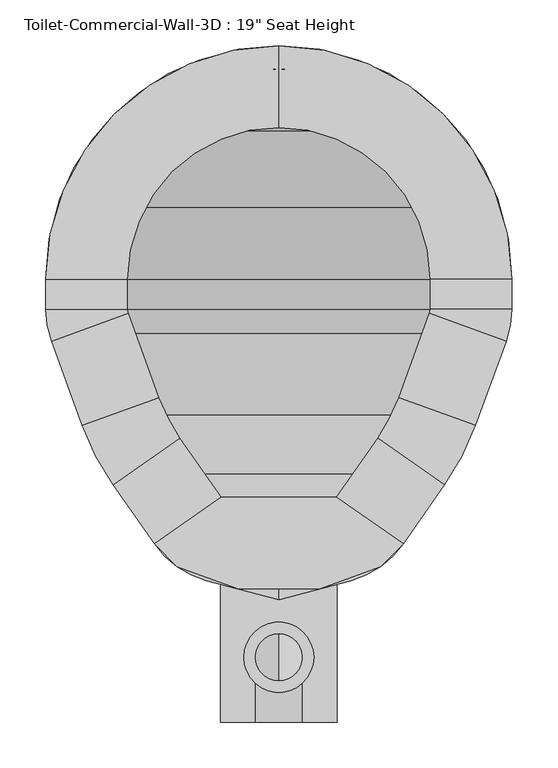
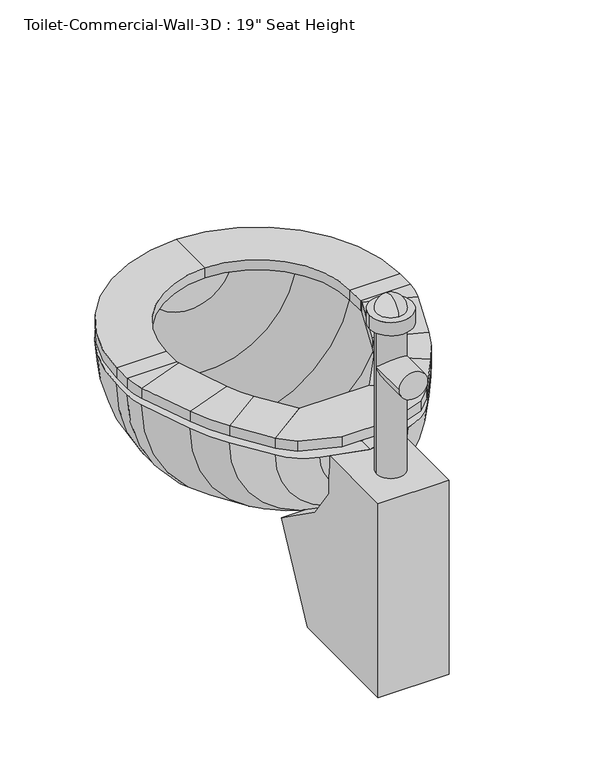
"""IFC4 building model written with IfcOpenShell, lengths in millimetres: flow terminal geometry."""

from ifc_helpers import new_model, si_unit, point, frame, frame_2d, origin, place, context, project, spatial, polyline, circle_curve, ellipse_curve, trimmed, segment, composite_curve, outline, extrude, source, transform, mapped, element, save
from ifc_brep_helpers import plane_surface, cylinder_surface, revolved_surface, advanced_brep


def flow_terminal_6a37c47e(model_context):
    return source(origin(), model_context, "Body", "SolidModel", [
        extrude(outline(polyline([(467.7541169, 375.2097495), (540.5767337, 324.2188043), (515.6262519, 299.2683226), (449.563909, 275.2235961), (360.2423986, 275.2235961), (294.1800557, 299.2683226), (269.229574, 324.2188043), (342.0521907, 375.2097495), (467.7541169, 375.2097495)])), frame((0.0, 0.0, 457.2), z_axis=(0.0, 0.0, 1.0), x_axis=(1.0, 0.0, 0.0)), (0.0, 0.0, 1.0), 19.05),
        advanced_brep(
        [(467.7541169, 375.2097495, 457.2), (540.5767337, 324.2188043, 457.2), (540.5767337, 324.2188043, 476.25), (467.7541169, 375.2097495, 476.25), (512.8583992, 439.6253403, 457.2), (585.6810159, 388.6343951, 457.2), (585.6810159, 388.6343951, 476.25), (512.8583992, 439.6253403, 476.25), (619.360053, 453.3312234, 457.2), (535.821379, 483.7368141, 457.2), (619.360053, 453.3312234, 476.25), (535.821379, 483.7368141, 476.25), (569.2372501, 575.5461654, 457.2), (652.7759241, 545.1405747, 457.2), (652.7759241, 545.1405747, 476.25), (569.2372501, 575.5461654, 476.25), (658.9031538, 579.8898212, 457.2), (570.0031538, 579.8898212, 457.2), (658.9031538, 579.8898212, 476.25), (570.0031538, 579.8898212, 476.25), (570.0031538, 612.775, 457.2), (658.9031538, 612.775, 457.2), (658.9031538, 612.775, 476.25), (570.0031538, 612.775, 476.25), (404.9031538, 866.775, 457.2), (404.9031538, 777.875, 457.2), (404.9031538, 866.775, 476.25), (404.9031538, 777.875, 476.25), (150.9031538, 612.775, 457.2), (239.8031538, 612.775, 457.2), (150.9031538, 612.775, 476.25), (239.8031538, 612.775, 476.25), (239.8031538, 579.8898212, 457.2), (150.9031538, 579.8898212, 457.2), (150.9031538, 579.8898212, 476.25), (239.8031538, 579.8898212, 476.25), (157.0303835, 545.1405747, 457.2), (240.5690575, 575.5461654, 457.2), (157.0303835, 545.1405747, 476.25), (240.5690575, 575.5461654, 476.25), (273.9849286, 483.7368141, 457.2), (190.4462546, 453.3312234, 457.2), (190.4462546, 453.3312234, 476.25), (273.9849286, 483.7368141, 476.25), (224.1252917, 388.6343951, 457.2), (296.9479084, 439.6253403, 457.2), (224.1252917, 388.6343951, 476.25), (296.9479084, 439.6253403, 476.25), (342.0521907, 375.2097495, 457.2), (342.0521907, 375.2097495, 476.25), (269.229574, 324.2188043, 476.25), (269.229574, 324.2188043, 457.2)],
        [
            (0, 1),
            (1, 2),
            (2, 3),
            (3, 0),
            (0, 4),
            (4, 5),
            (5, 1),
            (5, 6),
            (6, 2),
            (6, 7),
            (7, 3),
            (7, 4),
            (8, 5, circle_curve(frame((356.8099347, 548.8916514, 457.2), z_axis=(0.0, 0.0, -1.0), x_axis=(0.8191520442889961, -0.5735764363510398, 0.0)), 279.4)),
            (4, 9, circle_curve(frame((356.8099347, 548.8916514, 457.2), z_axis=(0.0, 0.0, 1.0), x_axis=(0.8191520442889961, -0.5735764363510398, 0.0)), 190.5)),
            (9, 8),
            (10, 6, circle_curve(frame((356.8099347, 548.8916514, 476.25), z_axis=(0.0, 0.0, -1.0), x_axis=(0.8191520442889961, -0.5735764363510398, 0.0)), 279.4)),
            (8, 10),
            (11, 7, circle_curve(frame((356.8099347, 548.8916514, 476.25), z_axis=(0.0, 0.0, -1.0), x_axis=(0.8191520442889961, -0.5735764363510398, 0.0)), 190.5)),
            (10, 11),
            (11, 9),
            (9, 12),
            (12, 13),
            (13, 8),
            (13, 14),
            (14, 10),
            (14, 15),
            (15, 11),
            (15, 12),
            (16, 13, circle_curve(frame((557.3031538, 579.8898212, 457.2), z_axis=(0.0, 0.0, -1.0), x_axis=(0.9396926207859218, -0.34202014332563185, 0.0)), 101.6)),
            (12, 17, circle_curve(frame((557.3031538, 579.8898212, 457.2), z_axis=(0.0, 0.0, 1.0), x_axis=(0.9396926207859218, -0.34202014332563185, 0.0)), 12.7)),
            (17, 16),
            (18, 14, circle_curve(frame((557.3031538, 579.8898212, 476.25), z_axis=(0.0, 0.0, -1.0), x_axis=(0.9396926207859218, -0.34202014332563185, 0.0)), 101.6)),
            (16, 18),
            (19, 15, circle_curve(frame((557.3031538, 579.8898212, 476.25), z_axis=(0.0, 0.0, -1.0), x_axis=(0.9396926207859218, -0.34202014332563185, 0.0)), 12.7)),
            (18, 19),
            (19, 17),
            (17, 20),
            (20, 21),
            (21, 16),
            (21, 22),
            (22, 18),
            (22, 23),
            (23, 19),
            (23, 20),
            (24, 21, circle_curve(frame((404.9031538, 612.775, 457.2), z_axis=(0.0, 0.0, -1.0), x_axis=(1.0, 0.0, 0.0)), 254.0)),
            (20, 25, circle_curve(frame((404.9031538, 612.775, 457.2), z_axis=(0.0, 0.0, 1.0), x_axis=(1.0, 0.0, 0.0)), 165.1)),
            (25, 24),
            (26, 22, circle_curve(frame((404.9031538, 612.775, 476.25), z_axis=(0.0, 0.0, -1.0), x_axis=(1.0, 0.0, 0.0)), 254.0)),
            (24, 26),
            (27, 23, circle_curve(frame((404.9031538, 612.775, 476.25), z_axis=(0.0, 0.0, -1.0), x_axis=(1.0, 0.0, 0.0)), 165.1)),
            (26, 27),
            (27, 25),
            (28, 24, circle_curve(frame((404.9031538, 612.775, 457.2), z_axis=(0.0, 0.0, -1.0), x_axis=(0.0, 1.0, 0.0)), 254.0)),
            (25, 29, circle_curve(frame((404.9031538, 612.775, 457.2), z_axis=(0.0, 0.0, 1.0), x_axis=(0.0, 1.0, 0.0)), 165.1)),
            (29, 28),
            (30, 26, circle_curve(frame((404.9031538, 612.775, 476.25), z_axis=(0.0, 0.0, -1.0), x_axis=(0.0, 1.0, 0.0)), 254.0)),
            (28, 30),
            (31, 27, circle_curve(frame((404.9031538, 612.775, 476.25), z_axis=(0.0, 0.0, -1.0), x_axis=(0.0, 1.0, 0.0)), 165.1)),
            (30, 31),
            (31, 29),
            (29, 32),
            (32, 33),
            (33, 28),
            (33, 34),
            (34, 30),
            (34, 35),
            (35, 31),
            (35, 32),
            (36, 33, circle_curve(frame((252.5031538, 579.8898212, 457.2), z_axis=(0.0, 0.0, -1.0), x_axis=(-1.0, 0.0, 0.0)), 101.6)),
            (32, 37, circle_curve(frame((252.5031538, 579.8898212, 457.2), z_axis=(0.0, 0.0, 1.0), x_axis=(-1.0, 0.0, 0.0)), 12.7)),
            (37, 36),
            (38, 34, circle_curve(frame((252.5031538, 579.8898212, 476.25), z_axis=(0.0, 0.0, -1.0), x_axis=(-1.0, 0.0, 0.0)), 101.6)),
            (36, 38),
            (39, 35, circle_curve(frame((252.5031538, 579.8898212, 476.25), z_axis=(0.0, 0.0, -1.0), x_axis=(-1.0, 0.0, 0.0)), 12.7)),
            (38, 39),
            (39, 37),
            (37, 40),
            (40, 41),
            (41, 36),
            (41, 42),
            (42, 38),
            (42, 43),
            (43, 39),
            (43, 40),
            (44, 41, circle_curve(frame((452.9963729, 548.8916514, 457.2), z_axis=(0.0, 0.0, -1.0), x_axis=(-0.9396926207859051, -0.34202014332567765, 0.0)), 279.4)),
            (40, 45, circle_curve(frame((452.9963729, 548.8916514, 457.2), z_axis=(0.0, 0.0, 1.0), x_axis=(-0.9396926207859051, -0.34202014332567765, 0.0)), 190.5)),
            (45, 44),
            (46, 42, circle_curve(frame((452.9963729, 548.8916514, 476.25), z_axis=(0.0, 0.0, -1.0), x_axis=(-0.9396926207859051, -0.34202014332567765, 0.0)), 279.4)),
            (44, 46),
            (47, 43, circle_curve(frame((452.9963729, 548.8916514, 476.25), z_axis=(0.0, 0.0, -1.0), x_axis=(-0.9396926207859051, -0.34202014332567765, 0.0)), 190.5)),
            (46, 47),
            (47, 45),
            (48, 49),
            (49, 50),
            (50, 51),
            (51, 48),
            (45, 48),
            (51, 44),
            (50, 46),
            (49, 47),
        ],
        [
            plane_surface(frame((540.5767337, 324.2188043, 538.8995365), z_axis=(-0.5735764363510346, -0.8191520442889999, 0.0), x_axis=(0.8191520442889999, -0.5735764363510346, 0.0))),
            plane_surface(frame((467.7541169, 375.2097495, 457.2), z_axis=(0.0, 0.0, -1.0), x_axis=(0.5735764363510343, 0.8191520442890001, 0.0))),
            plane_surface(frame((540.5767337, 324.2188043, 457.2), z_axis=(0.8191520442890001, -0.5735764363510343, 0.0), x_axis=(0.5735764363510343, 0.8191520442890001, 0.0))),
            plane_surface(frame((540.5767337, 324.2188043, 476.25), z_axis=(0.0, 0.0, 1.0), x_axis=(0.5735764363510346, 0.8191520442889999, 0.0))),
            plane_surface(frame((467.7541169, 375.2097495, 476.25), z_axis=(-0.8191520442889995, 0.5735764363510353, 0.0), x_axis=(0.5735764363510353, 0.8191520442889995, 0.0))),
            plane_surface(frame((356.8099347, 548.8916514, 457.2), z_axis=(0.0, 0.0, -1.0000000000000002), x_axis=(0.8191520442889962, -0.5735764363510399, 0.0))),
            cylinder_surface(frame((356.8099347, 548.8916514, 444.5), z_axis=(0.0, 0.0, 1.0), x_axis=(0.8191520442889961, -0.5735764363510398, 0.0)), 279.4),
            plane_surface(frame((356.8099347, 548.8916514, 476.25), z_axis=(0.0, 0.0, 1.0000000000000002), x_axis=(0.8191520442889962, -0.5735764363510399, 0.0))),
            revolved_surface(polyline([(512.8583991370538, 439.6253402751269, 476.25), (512.8583991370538, 439.6253402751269, 457.2)]), (356.8099347, 548.8916514, 444.5), (0.0, 0.0, 1.0)),
            plane_surface(frame((535.821379, 483.7368141, 457.2), z_axis=(0.0, 0.0, -1.0000000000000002), x_axis=(0.34202014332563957, 0.9396926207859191, 0.0))),
            plane_surface(frame((619.360053, 453.3312234, 457.2), z_axis=(0.9396926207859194, -0.34202014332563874, 0.0), x_axis=(0.34202014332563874, 0.9396926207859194, 0.0))),
            plane_surface(frame((619.360053, 453.3312234, 476.25), z_axis=(0.0, 0.0, 1.0000000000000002), x_axis=(0.3420201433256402, 0.9396926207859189, 0.0))),
            plane_surface(frame((535.821379, 483.7368141, 476.25), z_axis=(-0.939692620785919, 0.3420201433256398, 0.0), x_axis=(0.3420201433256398, 0.939692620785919, 0.0))),
            plane_surface(frame((557.3031538, 579.8898212, 457.2), z_axis=(0.0, 0.0, -1.0000000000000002), x_axis=(0.9396926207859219, -0.3420201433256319, 0.0))),
            cylinder_surface(frame((557.3031538, 579.8898212, 444.5), z_axis=(0.0, 0.0, 1.0), x_axis=(0.9396926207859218, -0.34202014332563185, 0.0)), 101.6),
            plane_surface(frame((557.3031538, 579.8898212, 476.25), z_axis=(0.0, 0.0, 1.0000000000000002), x_axis=(0.9396926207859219, -0.3420201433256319, 0.0))),
            revolved_surface(polyline([(569.2372500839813, 575.5461653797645, 476.25), (569.2372500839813, 575.5461653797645, 457.2)]), (557.3031538, 579.8898212, 444.5), (0.0, 0.0, 1.0)),
            plane_surface(frame((570.0031538, 579.8898212, 457.2), z_axis=(0.0, 0.0, -1.0), x_axis=(0.0, 1.0, 0.0))),
            plane_surface(frame((658.9031538, 579.8898212, 457.2), z_axis=(1.0, 0.0, 0.0), x_axis=(0.0, 1.0, 0.0))),
            plane_surface(frame((658.9031538, 579.8898212, 476.25), z_axis=(0.0, 0.0, 1.0), x_axis=(0.0, 1.0, 0.0))),
            plane_surface(frame((570.0031538, 579.8898212, 476.25), z_axis=(-1.0, 0.0, 0.0), x_axis=(0.0, 1.0, 0.0))),
            plane_surface(frame((404.9031538, 612.775, 457.2), z_axis=(0.0, 0.0, -1.0), x_axis=(1.0, 0.0, 0.0))),
            cylinder_surface(frame((404.9031538, 612.775, 444.5), z_axis=(0.0, 0.0, 1.0), x_axis=(1.0, 0.0, 0.0)), 254.0),
            plane_surface(frame((404.9031538, 612.775, 476.25), z_axis=(0.0, 0.0, 1.0), x_axis=(1.0, 0.0, 0.0))),
            revolved_surface(polyline([(570.0031538, 612.775, 476.25), (570.0031538, 612.775, 457.2)]), (404.9031538, 612.775, 444.5), (0.0, 0.0, 1.0)),
            plane_surface(frame((404.9031538, 612.775, 457.2), z_axis=(0.0, 0.0, -1.0), x_axis=(0.0, 1.0, 0.0))),
            cylinder_surface(frame((404.9031538, 612.775, 444.5), z_axis=(0.0, 0.0, 1.0), x_axis=(0.0, 1.0, 0.0)), 254.0),
            plane_surface(frame((404.9031538, 612.775, 476.25), z_axis=(0.0, 0.0, 1.0), x_axis=(0.0, 1.0, 0.0))),
            revolved_surface(polyline([(404.9031538, 777.875, 476.25), (404.9031538, 777.875, 457.2)]), (404.9031538, 612.775, 444.5), (0.0, 0.0, 1.0)),
            plane_surface(frame((239.8031538, 612.775, 457.2), z_axis=(0.0, 0.0, -1.0), x_axis=(0.0, -1.0, 0.0))),
            plane_surface(frame((150.9031538, 612.775, 457.2), z_axis=(-1.0, 0.0, 0.0), x_axis=(0.0, -1.0, 0.0))),
            plane_surface(frame((150.9031538, 612.775, 476.25), z_axis=(0.0, 0.0, 1.0), x_axis=(0.0, -1.0, 0.0))),
            plane_surface(frame((239.8031538, 612.775, 476.25), z_axis=(1.0, 0.0, 0.0), x_axis=(0.0, -1.0, 0.0))),
            plane_surface(frame((252.5031538, 579.8898212, 457.2), z_axis=(0.0, 0.0, -1.0), x_axis=(-1.0, 0.0, 0.0))),
            cylinder_surface(frame((252.5031538, 579.8898212, 444.5), z_axis=(0.0, 0.0, 1.0), x_axis=(-1.0, 0.0, 0.0)), 101.6),
            plane_surface(frame((252.5031538, 579.8898212, 476.25), z_axis=(0.0, 0.0, 1.0), x_axis=(-1.0, 0.0, 0.0))),
            revolved_surface(polyline([(239.80315380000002, 579.8898212, 476.25), (239.80315380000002, 579.8898212, 457.2)]), (252.5031538, 579.8898212, 444.5), (0.0, 0.0, 1.0)),
            plane_surface(frame((240.5690575, 575.5461654, 457.2), z_axis=(0.0, 0.0, -1.0), x_axis=(0.3420201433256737, -0.9396926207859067, 0.0))),
            plane_surface(frame((157.0303835, 545.1405747, 457.2), z_axis=(-0.9396926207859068, -0.3420201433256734, 0.0), x_axis=(0.3420201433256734, -0.9396926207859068, 0.0))),
            plane_surface(frame((157.0303835, 545.1405747, 476.25), z_axis=(0.0, 0.0, 1.0), x_axis=(0.3420201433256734, -0.9396926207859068, 0.0))),
            plane_surface(frame((240.5690575, 575.5461654, 476.25), z_axis=(0.9396926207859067, 0.3420201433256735, 0.0), x_axis=(0.3420201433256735, -0.9396926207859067, 0.0))),
            plane_surface(frame((452.9963729, 548.8916514, 457.2), z_axis=(0.0, 0.0, -1.0000000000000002), x_axis=(-0.9396926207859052, -0.3420201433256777, 0.0))),
            cylinder_surface(frame((452.9963729, 548.8916514, 444.5), z_axis=(0.0, 0.0, 1.0), x_axis=(-0.9396926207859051, -0.34202014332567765, 0.0)), 279.4),
            plane_surface(frame((452.9963729, 548.8916514, 476.25), z_axis=(0.0, 0.0, 1.0000000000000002), x_axis=(-0.9396926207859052, -0.3420201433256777, 0.0))),
            revolved_surface(polyline([(273.98492864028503, 483.7368140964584, 476.25), (273.98492864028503, 483.7368140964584, 457.2)]), (452.9963729, 548.8916514, 444.5), (0.0, 0.0, 1.0)),
            plane_surface(frame((269.229574, 324.2188043, 350.1004635), z_axis=(0.5735764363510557, -0.8191520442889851, 0.0), x_axis=(0.8191520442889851, 0.5735764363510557, 0.0))),
            plane_surface(frame((296.9479084, 439.6253403, 457.2), z_axis=(0.0, 0.0, -1.0), x_axis=(0.5735764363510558, -0.819152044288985, 0.0))),
            plane_surface(frame((224.1252917, 388.6343951, 457.2), z_axis=(-0.8191520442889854, -0.5735764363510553, 0.0), x_axis=(0.5735764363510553, -0.8191520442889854, 0.0))),
            plane_surface(frame((224.1252917, 388.6343951, 476.25), z_axis=(0.0, 0.0, 1.0), x_axis=(0.5735764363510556, -0.8191520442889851, 0.0))),
            plane_surface(frame((296.9479084, 439.6253403, 476.25), z_axis=(0.8191520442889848, 0.5735764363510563, 0.0), x_axis=(0.5735764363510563, -0.8191520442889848, 0.0))),
        ],
        [
            (0, [[1, 2, 3, 4]]),
            (1, [[-1, 5, 6, 7]]),
            (2, [[-2, -7, 8, 9]]),
            (3, [[-3, -9, 10, 11]]),
            (4, [[-4, -11, 12, -5]]),
            (5, [[13, -6, 14, 15]]),
            (6, [[16, -8, -13, 17]]),
            (7, [[18, -10, -16, 19]]),
            (8, [[-14, -12, -18, 20]]),
            (9, [[-15, 21, 22, 23]]),
            (10, [[-17, -23, 24, 25]]),
            (11, [[-19, -25, 26, 27]]),
            (12, [[-20, -27, 28, -21]]),
            (13, [[29, -22, 30, 31]]),
            (14, [[32, -24, -29, 33]]),
            (15, [[34, -26, -32, 35]]),
            (16, [[-30, -28, -34, 36]]),
            (17, [[-31, 37, 38, 39]]),
            (18, [[-33, -39, 40, 41]]),
            (19, [[-35, -41, 42, 43]]),
            (20, [[-36, -43, 44, -37]]),
            (21, [[45, -38, 46, 47]]),
            (22, [[48, -40, -45, 49]]),
            (23, [[50, -42, -48, 51]]),
            (24, [[-46, -44, -50, 52]]),
            (25, [[53, -47, 54, 55]]),
            (26, [[56, -49, -53, 57]]),
            (27, [[58, -51, -56, 59]]),
            (28, [[-54, -52, -58, 60]]),
            (29, [[-55, 61, 62, 63]]),
            (30, [[-57, -63, 64, 65]]),
            (31, [[-59, -65, 66, 67]]),
            (32, [[-60, -67, 68, -61]]),
            (33, [[69, -62, 70, 71]]),
            (34, [[72, -64, -69, 73]]),
            (35, [[74, -66, -72, 75]]),
            (36, [[-70, -68, -74, 76]]),
            (37, [[-71, 77, 78, 79]]),
            (38, [[-73, -79, 80, 81]]),
            (39, [[-75, -81, 82, 83]]),
            (40, [[-76, -83, 84, -77]]),
            (41, [[85, -78, 86, 87]]),
            (42, [[88, -80, -85, 89]]),
            (43, [[90, -82, -88, 91]]),
            (44, [[-86, -84, -90, 92]]),
            (45, [[93, 94, 95, 96]]),
            (46, [[-87, 97, -96, 98]]),
            (47, [[-89, -98, -95, 99]]),
            (48, [[-91, -99, -94, 100]]),
            (49, [[-92, -100, -93, -97]]),
        ],
    ),
        advanced_brep(
        [(491.7762702, 851.4569257, 444.5), (404.9031538, 866.775, 444.5), (404.9031538, 841.375, 444.5), (483.0889586, 827.5887331, 444.5), (566.547764, 774.4196102, 444.5), (619.7168869, 690.9608048, 444.5), (633.5031538, 612.775, 444.5), (633.5031538, 579.8898212, 444.5), (628.9077315, 553.8278863, 444.5), (596.6355667, 465.1608422, 444.5), (562.9565296, 400.4640139, 444.5), (525.0728964, 346.3605786, 444.5), (468.1430637, 306.4978806, 444.5), (404.9031538, 289.5527978, 444.5), (404.9031538, 263.2567829, 444.5), (483.6469009, 284.3561063, 444.5), (540.5767337, 324.2188043, 444.5), (585.6810159, 388.6343951, 444.5), (619.360053, 453.3312234, 444.5), (652.7759241, 545.1405747, 444.5), (658.9031538, 579.8898212, 444.5), (658.9031538, 612.775, 444.5), (643.5850795, 699.6481164, 444.5), (584.5082762, 792.3801224, 444.5), (318.0300374, 851.4569257, 444.5), (225.2980314, 792.3801224, 444.5), (166.2212281, 699.6481164, 444.5), (150.9031538, 612.775, 444.5), (150.9031538, 579.8898212, 444.5), (157.0303835, 545.1405747, 444.5), (190.4462546, 453.3312234, 444.5), (224.1252917, 388.6343951, 444.5), (269.229574, 324.2188043, 444.5), (326.1594067, 284.3561063, 444.5), (341.663244, 306.4978806, 444.5), (284.7334112, 346.3605786, 444.5), (246.849778, 400.4640139, 444.5), (213.1707409, 465.1608422, 444.5), (180.8985761, 553.8278863, 444.5), (176.3031538, 579.8898212, 444.5), (176.3031538, 612.775, 444.5), (190.0894207, 690.9608048, 444.5), (243.2585436, 774.4196102, 444.5), (326.7173491, 827.5887331, 444.5)],
        [
            (0, 1, circle_curve(frame((404.9031538, 612.775, 444.5), z_axis=(0.0, 0.0, 1.0), x_axis=(1.0, 0.0, 0.0)), 254.0)),
            (1, 2),
            (2, 3, circle_curve(frame((404.9031538, 612.775, 444.5), z_axis=(0.0, 0.0, -1.0), x_axis=(1.0, 0.0, 0.0)), 228.6)),
            (3, 4, circle_curve(frame((404.9031538, 612.775, 444.5), z_axis=(0.0, 0.0, -1.0), x_axis=(1.0, 0.0, 0.0)), 228.6)),
            (4, 5, circle_curve(frame((404.9031538, 612.775, 444.5), z_axis=(0.0, 0.0, -1.0), x_axis=(1.0, 0.0, 0.0)), 228.6)),
            (5, 6, circle_curve(frame((404.9031538, 612.775, 444.5), z_axis=(0.0, 0.0, -1.0), x_axis=(1.0, 0.0, 0.0)), 228.6)),
            (6, 7),
            (7, 8, circle_curve(frame((557.3031538, 579.8898212, 444.5), z_axis=(0.0, 0.0, -1.0), x_axis=(1.0, 0.0, 0.0)), 76.2)),
            (8, 9),
            (9, 10, circle_curve(frame((334.0854485, 560.7212703, 444.5), z_axis=(0.0, 0.0, -1.0), x_axis=(1.0, 0.0, 0.0)), 279.4)),
            (10, 11),
            (11, 12, circle_curve(frame((441.8470487, 404.6359446, 444.5), z_axis=(0.0, 0.0, -1.0), x_axis=(1.0, 0.0, 0.0)), 101.6)),
            (12, 13),
            (13, 14),
            (14, 15),
            (15, 16, circle_curve(frame((457.350886, 382.4941703, 444.5), z_axis=(0.0, 0.0, 1.0), x_axis=(1.0, 0.0, 0.0)), 101.6)),
            (16, 17),
            (17, 18, circle_curve(frame((356.8099347, 548.8916514, 444.5), z_axis=(0.0, 0.0, 1.0), x_axis=(1.0, 0.0, 0.0)), 279.4)),
            (18, 19),
            (19, 20, circle_curve(frame((557.3031538, 579.8898212, 444.5), z_axis=(0.0, 0.0, 1.0), x_axis=(1.0, 0.0, 0.0)), 101.6)),
            (20, 21),
            (21, 22, circle_curve(frame((404.9031538, 612.775, 444.5), z_axis=(0.0, 0.0, 1.0), x_axis=(1.0, 0.0, 0.0)), 254.0)),
            (22, 23, circle_curve(frame((404.9031538, 612.775, 444.5), z_axis=(0.0, 0.0, 1.0), x_axis=(1.0, 0.0, 0.0)), 254.0)),
            (23, 0, circle_curve(frame((404.9031538, 612.775, 444.5), z_axis=(0.0, 0.0, 1.0), x_axis=(1.0, 0.0, 0.0)), 254.0)),
            (24, 25, circle_curve(frame((404.9031538, 612.775, 444.5), z_axis=(0.0, 0.0, 1.0), x_axis=(-1.0, 0.0, 0.0)), 254.0)),
            (25, 26, circle_curve(frame((404.9031538, 612.775, 444.5), z_axis=(0.0, 0.0, 1.0), x_axis=(-1.0, 0.0, 0.0)), 254.0)),
            (26, 27, circle_curve(frame((404.9031538, 612.775, 444.5), z_axis=(0.0, 0.0, 1.0), x_axis=(-1.0, 0.0, 0.0)), 254.0)),
            (27, 28),
            (28, 29, circle_curve(frame((252.5031538, 579.8898212, 444.5), z_axis=(0.0, 0.0, 1.0), x_axis=(-1.0, 0.0, 0.0)), 101.6)),
            (29, 30),
            (30, 31, circle_curve(frame((452.9963729, 548.8916514, 444.5), z_axis=(0.0, 0.0, 1.0), x_axis=(-1.0, 0.0, 0.0)), 279.4)),
            (31, 32),
            (32, 33, circle_curve(frame((352.4554217, 382.4941703, 444.5), z_axis=(0.0, 0.0, 1.0), x_axis=(-1.0, 0.0, 0.0)), 101.6)),
            (33, 14),
            (13, 34),
            (34, 35, circle_curve(frame((367.9592589, 404.6359446, 444.5), z_axis=(0.0, 0.0, -1.0), x_axis=(-1.0, 0.0, 0.0)), 101.6)),
            (35, 36),
            (36, 37, circle_curve(frame((475.7208592, 560.7212703, 444.5), z_axis=(0.0, 0.0, -1.0), x_axis=(-1.0, 0.0, 0.0)), 279.4)),
            (37, 38),
            (38, 39, circle_curve(frame((252.5031538, 579.8898212, 444.5), z_axis=(0.0, 0.0, -1.0), x_axis=(-1.0, 0.0, 0.0)), 76.2)),
            (39, 40),
            (40, 41, circle_curve(frame((404.9031538, 612.775, 444.5), z_axis=(0.0, 0.0, -1.0), x_axis=(-1.0, 0.0, 0.0)), 228.6)),
            (41, 42, circle_curve(frame((404.9031538, 612.775, 444.5), z_axis=(0.0, 0.0, -1.0), x_axis=(-1.0, 0.0, 0.0)), 228.6)),
            (42, 43, circle_curve(frame((404.9031538, 612.775, 444.5), z_axis=(0.0, 0.0, -1.0), x_axis=(-1.0, 0.0, 0.0)), 228.6)),
            (43, 2, circle_curve(frame((404.9031538, 612.775, 444.5), z_axis=(0.0, 0.0, -1.0), x_axis=(-1.0, 0.0, 0.0)), 228.6)),
            (1, 24, circle_curve(frame((404.9031538, 612.775, 444.5), z_axis=(0.0, 0.0, 1.0), x_axis=(-1.0, 0.0, 0.0)), 254.0)),
            (0, 24, circle_curve(frame((404.9031538, 851.4569257, 444.5), z_axis=(0.0, 1.0, 0.0), x_axis=(1.0, 0.0, 0.0)), 86.8731164)),
            (43, 3, circle_curve(frame((404.9031538, 827.5887331, 444.5), z_axis=(0.0, -1.0, 0.0), x_axis=(1.0, 0.0, 0.0)), 78.1858048)),
            (42, 4, circle_curve(frame((404.9031538, 774.4196102, 444.5), z_axis=(0.0, -1.0, 0.0), x_axis=(1.0, 0.0, 0.0)), 161.6446102)),
            (41, 5, circle_curve(frame((404.9031538, 690.9608048, 444.5), z_axis=(0.0, -1.0, 0.0), x_axis=(1.0, 0.0, 0.0)), 214.8137331)),
            (40, 6, circle_curve(frame((404.9031538, 612.775, 444.5), z_axis=(0.0, -1.0, 0.0), x_axis=(1.0, 0.0, 0.0)), 228.6)),
            (39, 7, circle_curve(frame((404.9031538, 579.8898212, 444.5), z_axis=(0.0, -1.0, 0.0), x_axis=(1.0, 0.0, 0.0)), 228.6)),
            (38, 8, circle_curve(frame((404.9031538, 553.8278863, 444.5), z_axis=(0.0, -1.0, 0.0), x_axis=(1.0, 0.0, 0.0)), 224.0045777)),
            (37, 9, circle_curve(frame((404.9031538, 465.1608422, 444.5), z_axis=(0.0, -1.0, 0.0), x_axis=(1.0, 0.0, 0.0)), 191.7324129)),
            (36, 10, circle_curve(frame((404.9031538, 400.4640139, 444.5), z_axis=(0.0, -1.0, 0.0), x_axis=(1.0, 0.0, 0.0)), 158.0533758)),
            (35, 11, circle_curve(frame((404.9031538, 346.3605786, 444.5), z_axis=(0.0, -1.0, 0.0), x_axis=(1.0, 0.0, 0.0)), 120.1697426)),
            (34, 12, circle_curve(frame((404.9031538, 306.4978806, 444.5), z_axis=(0.0, -1.0, 0.0), x_axis=(1.0, 0.0, 0.0)), 63.2399099)),
            (33, 15, circle_curve(frame((404.9031538, 284.3561063, 444.5), z_axis=(0.0, -1.0, 0.0), x_axis=(1.0, 0.0, 0.0)), 78.7437471)),
            (32, 16, circle_curve(frame((404.9031538, 324.2188043, 444.5), z_axis=(0.0, -1.0, 0.0), x_axis=(1.0, 0.0, 0.0)), 135.6735798)),
            (31, 17, circle_curve(frame((404.9031538, 388.6343951, 444.5), z_axis=(0.0, -1.0, 0.0), x_axis=(1.0, 0.0, 0.0)), 180.7778621)),
            (30, 18, circle_curve(frame((404.9031538, 453.3312234, 444.5), z_axis=(0.0, -1.0, 0.0), x_axis=(1.0, 0.0, 0.0)), 214.4568992)),
            (29, 19, circle_curve(frame((404.9031538, 545.1405747, 444.5), z_axis=(0.0, -1.0, 0.0), x_axis=(1.0, 0.0, 0.0)), 247.8727703)),
            (28, 20, circle_curve(frame((404.9031538, 579.8898212, 444.5), z_axis=(0.0, -1.0, 0.0), x_axis=(1.0, 0.0, 0.0)), 254.0)),
            (27, 21, circle_curve(frame((404.9031538, 612.775, 444.5), z_axis=(0.0, -1.0, 0.0), x_axis=(1.0, 0.0, 0.0)), 254.0)),
            (26, 22, circle_curve(frame((404.9031538, 699.6481164, 444.5), z_axis=(0.0, -1.0, 0.0), x_axis=(1.0, 0.0, 0.0)), 238.6819257)),
            (25, 23, circle_curve(frame((404.9031538, 792.3801224, 444.5), z_axis=(0.0, -1.0, 0.0), x_axis=(1.0, 0.0, 0.0)), 179.6051224)),
        ],
        [
            plane_surface(frame((404.9031538, 971.9852448, 444.5), z_axis=(0.0, 0.0, 1.0), x_axis=(1.0, 0.0, 0.0))),
            plane_surface(frame((404.9031538, 971.9852448, 444.5), z_axis=(0.0, 0.0, 1.0), x_axis=(-1.0, 0.0, 0.0))),
            revolved_surface(trimmed(ellipse_curve(frame((404.9031538, 612.775, 444.5), z_axis=(0.0, 0.0, 1.0), x_axis=(1.0, 0.0, 0.0)), 254.0, 254.0), [point((491.7762702, 851.4569257, 444.5))], [point((404.9031538, 866.775, 444.5))], True, "CARTESIAN"), (404.9031538, 971.9852448, 444.5), (0.0, 1.0, 0.0)),
            revolved_surface(trimmed(ellipse_curve(frame((404.9031538, 612.775, 444.5), z_axis=(0.0, 0.0, -1.0), x_axis=(1.0, 0.0, 0.0)), 228.6, 228.6), [point((404.9031538, 841.375, 444.5))], [point((483.0889586, 827.5887331, 444.5))], True, "CARTESIAN"), (404.9031538, 971.9852448, 444.5), (0.0, 1.0, 0.0)),
            revolved_surface(trimmed(ellipse_curve(frame((404.9031538, 612.775, 444.5), z_axis=(0.0, 0.0, -1.0), x_axis=(1.0, 0.0, 0.0)), 228.6, 228.6), [point((483.0889586, 827.5887331, 444.5))], [point((566.547764, 774.4196102, 444.5))], True, "CARTESIAN"), (404.9031538, 971.9852448, 444.5), (0.0, 1.0, 0.0)),
            revolved_surface(trimmed(ellipse_curve(frame((404.9031538, 612.775, 444.5), z_axis=(0.0, 0.0, -1.0), x_axis=(1.0, 0.0, 0.0)), 228.6, 228.6), [point((566.547764, 774.4196102, 444.5))], [point((619.7168869, 690.9608048, 444.5))], True, "CARTESIAN"), (404.9031538, 971.9852448, 444.5), (0.0, 1.0, 0.0)),
            revolved_surface(trimmed(ellipse_curve(frame((404.9031538, 612.775, 444.5), z_axis=(0.0, 0.0, -1.0), x_axis=(1.0, 0.0, 0.0)), 228.6, 228.6), [point((619.7168869, 690.9608048, 444.5))], [point((633.5031538, 612.775, 444.5))], True, "CARTESIAN"), (404.9031538, 971.9852448, 444.5), (0.0, 1.0, 0.0)),
            revolved_surface(polyline([(633.5031538, 612.775, 444.5), (633.5031538, 579.8898212, 444.5)]), (404.9031538, 971.9852448, 444.5), (0.0, 1.0, 0.0)),
            revolved_surface(trimmed(ellipse_curve(frame((557.3031538, 579.8898212, 444.5), z_axis=(0.0, 0.0, -1.0), x_axis=(1.0, 0.0, 0.0)), 76.2, 76.2), [point((633.5031538, 579.8898212, 444.5))], [point((628.9077315, 553.8278863, 444.5))], True, "CARTESIAN"), (404.9031538, 971.9852448, 444.5), (0.0, 1.0, 0.0)),
            revolved_surface(polyline([(628.9077315, 553.8278863, 444.5), (596.6355667, 465.1608422, 444.5)]), (404.9031538, 971.9852448, 444.5), (0.0, 1.0, 0.0)),
            revolved_surface(trimmed(ellipse_curve(frame((334.0854485, 560.7212703, 444.5), z_axis=(0.0, 0.0, -1.0), x_axis=(1.0, 0.0, 0.0)), 279.4, 279.4), [point((596.6355667, 465.1608422, 444.5))], [point((562.9565296, 400.4640139, 444.5))], True, "CARTESIAN"), (404.9031538, 971.9852448, 444.5), (0.0, 1.0, 0.0)),
            revolved_surface(polyline([(562.9565296, 400.4640139, 444.5), (525.0728964, 346.3605786, 444.5)]), (404.9031538, 971.9852448, 444.5), (0.0, 1.0, 0.0)),
            revolved_surface(trimmed(ellipse_curve(frame((441.8470487, 404.6359446, 444.5), z_axis=(0.0, 0.0, -1.0), x_axis=(1.0, 0.0, 0.0)), 101.6, 101.6), [point((525.0728964, 346.3605786, 444.5))], [point((468.1430637, 306.4978806, 444.5))], True, "CARTESIAN"), (404.9031538, 971.9852448, 444.5), (0.0, 1.0, 0.0)),
            revolved_surface(polyline([(468.1430637, 306.4978806, 444.5), (404.9031538, 289.5527978, 444.5)]), (404.9031538, 971.9852448, 444.5), (0.0, 1.0, 0.0)),
            revolved_surface(polyline([(404.9031538, 263.2567829, 444.5), (483.6469009, 284.3561063, 444.5)]), (404.9031538, 971.9852448, 444.5), (0.0, 1.0, 0.0)),
            revolved_surface(trimmed(ellipse_curve(frame((457.350886, 382.4941703, 444.5), z_axis=(0.0, 0.0, 1.0), x_axis=(1.0, 0.0, 0.0)), 101.6, 101.6), [point((483.6469009, 284.3561063, 444.5))], [point((540.5767337, 324.2188043, 444.5))], True, "CARTESIAN"), (404.9031538, 971.9852448, 444.5), (0.0, 1.0, 0.0)),
            revolved_surface(polyline([(540.5767337, 324.2188043, 444.5), (585.6810159, 388.6343951, 444.5)]), (404.9031538, 971.9852448, 444.5), (0.0, 1.0, 0.0)),
            revolved_surface(trimmed(ellipse_curve(frame((356.8099347, 548.8916514, 444.5), z_axis=(0.0, 0.0, 1.0), x_axis=(1.0, 0.0, 0.0)), 279.4, 279.4), [point((585.6810159, 388.6343951, 444.5))], [point((619.360053, 453.3312234, 444.5))], True, "CARTESIAN"), (404.9031538, 971.9852448, 444.5), (0.0, 1.0, 0.0)),
            revolved_surface(polyline([(619.360053, 453.3312234, 444.5), (652.7759241, 545.1405747, 444.5)]), (404.9031538, 971.9852448, 444.5), (0.0, 1.0, 0.0)),
            revolved_surface(trimmed(ellipse_curve(frame((557.3031538, 579.8898212, 444.5), z_axis=(0.0, 0.0, 1.0), x_axis=(1.0, 0.0, 0.0)), 101.6, 101.6), [point((652.7759241, 545.1405747, 444.5))], [point((658.9031538, 579.8898212, 444.5))], True, "CARTESIAN"), (404.9031538, 971.9852448, 444.5), (0.0, 1.0, 0.0)),
            cylinder_surface(frame((404.9031538, 971.9852448, 444.5), z_axis=(0.0, 1.0, 0.0), x_axis=(1.0, 0.0, 0.0)), 254.0),
            revolved_surface(trimmed(ellipse_curve(frame((404.9031538, 612.775, 444.5), z_axis=(0.0, 0.0, 1.0), x_axis=(1.0, 0.0, 0.0)), 254.0, 254.0), [point((658.9031538, 612.775, 444.5))], [point((643.5850795, 699.6481164, 444.5))], True, "CARTESIAN"), (404.9031538, 971.9852448, 444.5), (0.0, 1.0, 0.0)),
            revolved_surface(trimmed(ellipse_curve(frame((404.9031538, 612.775, 444.5), z_axis=(0.0, 0.0, 1.0), x_axis=(1.0, 0.0, 0.0)), 254.0, 254.0), [point((643.5850795, 699.6481164, 444.5))], [point((584.5082762, 792.3801224, 444.5))], True, "CARTESIAN"), (404.9031538, 971.9852448, 444.5), (0.0, 1.0, 0.0)),
            revolved_surface(trimmed(ellipse_curve(frame((404.9031538, 612.775, 444.5), z_axis=(0.0, 0.0, 1.0), x_axis=(1.0, 0.0, 0.0)), 254.0, 254.0), [point((584.5082762, 792.3801224, 444.5))], [point((491.7762702, 851.4569257, 444.5))], True, "CARTESIAN"), (404.9031538, 971.9852448, 444.5), (0.0, 1.0, 0.0)),
        ],
        [
            (0, [[1, 2, 3, 4, 5, 6, 7, 8, 9, 10, 11, 12, 13, 14, 15, 16, 17, 18, 19, 20, 21, 22, 23, 24]]),
            (1, [[25, 26, 27, 28, 29, 30, 31, 32, 33, 34, -14, 35, 36, 37, 38, 39, 40, 41, 42, 43, 44, 45, -2, 46]]),
            (2, [[-1, 47, -46]]),
            (3, [[48, -3, -45]]),
            (4, [[49, -4, -48, -44]]),
            (5, [[50, -5, -49, -43]]),
            (6, [[51, -6, -50, -42]]),
            (7, [[52, -7, -51, -41]]),
            (8, [[53, -8, -52, -40]]),
            (9, [[54, -9, -53, -39]]),
            (10, [[55, -10, -54, -38]]),
            (11, [[56, -11, -55, -37]]),
            (12, [[57, -12, -56, -36]]),
            (13, [[-13, -57, -35]]),
            (14, [[58, -15, -34]]),
            (15, [[59, -16, -58, -33]]),
            (16, [[60, -17, -59, -32]]),
            (17, [[61, -18, -60, -31]]),
            (18, [[62, -19, -61, -30]]),
            (19, [[63, -20, -62, -29]]),
            (20, [[64, -21, -63, -28]]),
            (21, [[65, -22, -64, -27]]),
            (22, [[66, -23, -65, -26]]),
            (23, [[-47, -24, -66, -25]]),
        ],
    ),
        advanced_brep(
        [(404.9031538, 175.0926912, 749.3), (404.9031538, 226.3278563, 749.3), (404.9031538, 200.7102737, 774.9175826), (404.9031538, 200.7102737, 749.3)],
        [
            (0, 1, circle_curve(frame((404.9031538, 200.7102737, 749.3), z_axis=(0.0, 0.0, 1.0), x_axis=(0.0, 1.0, 0.0)), 25.6175826)),
            (1, 2, circle_curve(frame((404.9031538, 200.7102737, 749.3), z_axis=(1.0, 0.0, 0.0), x_axis=(0.0, -1.0, 0.0)), 25.6175826)),
            (2, 0, circle_curve(frame((404.9031538, 200.7102737, 749.3), z_axis=(1.0, 0.0, 0.0), x_axis=(0.0, 1.0, 0.0)), 25.6175826)),
            (1, 0, circle_curve(frame((404.9031538, 200.7102737, 749.3), z_axis=(0.0, 0.0, 1.0), x_axis=(0.0, 1.0, 0.0)), 25.6175826)),
            (3, 1),
            (0, 3),
        ],
        [
            revolved_surface(trimmed(ellipse_curve(frame((404.9031538, 200.7102737, 749.3), z_axis=(-1.0, 0.0, 0.0), x_axis=(0.0, -1.0, 0.0)), 25.6175826, 25.6175826), [point((404.9031538, 200.7102737, 774.9175826))], [point((404.9031538, 226.3278563, 749.3))], True, "CARTESIAN"), (404.9031538, 200.7102737, 813.9277273), (0.0, 0.0, -1.0)),
            plane_surface(frame((404.9031538, 200.7102737, 749.3), z_axis=(0.0, 0.0, -1.0), x_axis=(0.0, 1.0, 0.0))),
        ],
        [
            (0, [[1, 2, 3]]),
            (0, [[4, -3, -2]]),
            (1, [[5, -1, 6]]),
            (1, [[-6, -4, -5]]),
        ],
    ),
        extrude(outline(composite_curve([segment(trimmed(circle_curve(frame_2d((404.9031538, 200.7102737)), 38.1), [point((366.8031538, 200.7102737))], [point((443.0031538, 200.7102737))], False, "CARTESIAN"), True, "CONTINUOUS"), segment(trimmed(circle_curve(frame_2d((404.9031538, 200.7102737)), 38.1), [point((443.0031538, 200.7102737))], [point((366.8031538, 200.7102737))], False, "CARTESIAN"), True, "CONTINUOUS")], self_intersect=False)), frame((0.0, 0.0, 723.9), z_axis=(0.0, 0.0, 1.0), x_axis=(1.0, 0.0, 0.0)), (0.0, 0.0, 1.0), 25.4),
        extrude(outline(composite_curve([segment(trimmed(circle_curve(frame_2d((645.8113641, 404.9031538)), 25.4), [point((645.8113641, 379.5031538))], [point((645.8113641, 430.3031538))], False, "CARTESIAN"), True, "CONTINUOUS"), segment(trimmed(circle_curve(frame_2d((645.8113641, 404.9031538)), 25.4), [point((645.8113641, 430.3031538))], [point((645.8113641, 379.5031538))], False, "CARTESIAN"), True, "CONTINUOUS")], self_intersect=False)), frame((0.0, 130.175, 0.0), z_axis=(0.0, 1.0, 0.0), x_axis=(0.0, 0.0, 1.0)), (0.0, 0.0, 1.0), 70.64375),
        extrude(outline(composite_curve([segment(trimmed(circle_curve(frame_2d((404.9031538, 200.7102737)), 25.4), [point((379.5031538, 200.7102737))], [point((430.3031538, 200.7102737))], False, "CARTESIAN"), True, "CONTINUOUS"), segment(trimmed(circle_curve(frame_2d((404.9031538, 200.7102737)), 25.4), [point((430.3031538, 200.7102737))], [point((379.5031538, 200.7102737))], False, "CARTESIAN"), True, "CONTINUOUS")], self_intersect=False)), frame((0.0, 0.0, 444.5), z_axis=(0.0, 0.0, 1.0), x_axis=(1.0, 0.0, 0.0)), (0.0, 0.0, 1.0), 279.4),
        extrude(outline(polyline([(282.9787941, 444.5), (282.9787941, 370.896452), (326.6853185, 308.4770663), (430.7176282, 235.6328588), (350.2204017, 76.2), (130.175, 76.2), (130.175, 444.5), (282.9787941, 444.5)])), frame((341.4031538, 0.0, 0.0), z_axis=(1.0, 0.0, 0.0), x_axis=(0.0, 1.0, 0.0)), (0.0, 0.0, 1.0), 127.0),
    ])


if __name__ == "__main__":
    model = new_model("IFC4")
    model_context = context("Model", 3, world=origin())
    ifc_project = project(units=[si_unit("LENGTHUNIT", "METRE", prefix="MILLI")], contexts=[model_context])
    site = spatial("IfcSite", under=ifc_project)
    building = spatial("IfcBuilding", under=site)
    placement = place(None, origin())
    flow_terminal_shape = flow_terminal_6a37c47e(model_context)
    element("IfcFlowTerminal", 1, ObjectType="Toilet-Commercial-Wall-3D : 19\" Seat Height", at=placement, inside=building, context=model_context, shape_type="MappedRepresentation", body=[
        mapped(flow_terminal_shape, transform((0.0, 0.0, 0.0), x_axis=(1.0, 0.0, 0.0), y_axis=(0.0, 1.0, 0.0), z_axis=(0.0, 0.0, 1.0))),
    ])
    save(model, "model.ifc")
